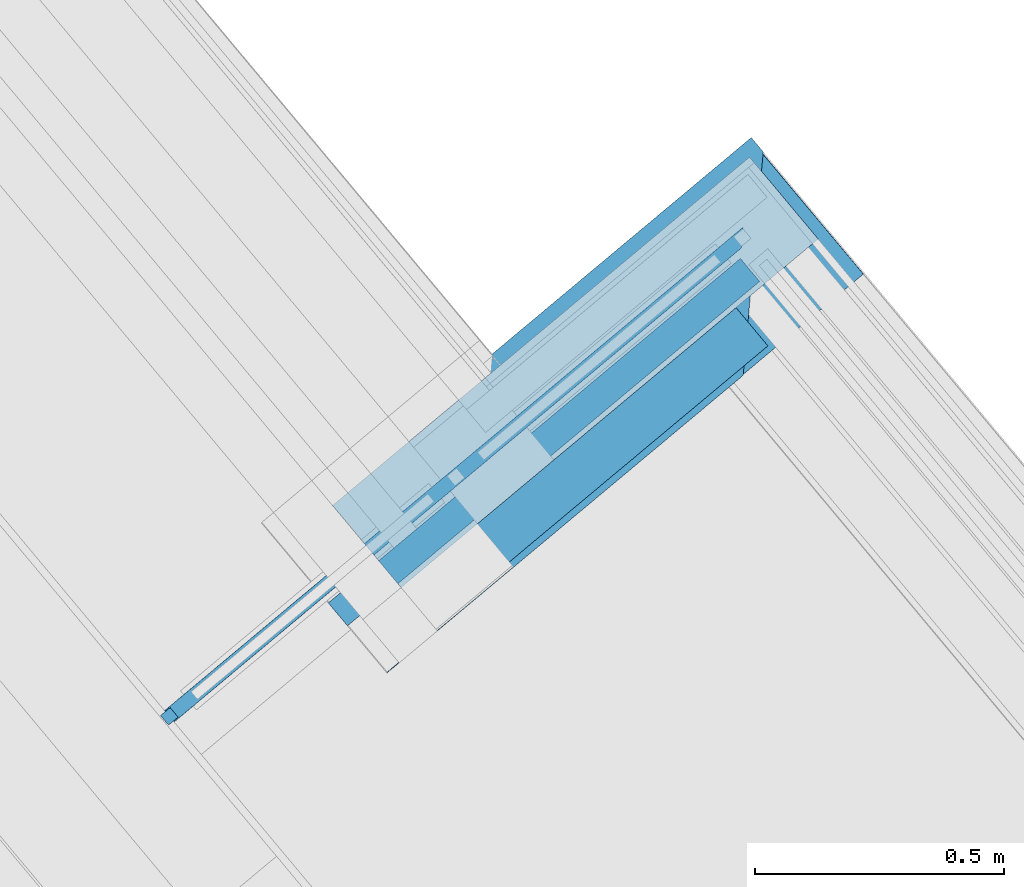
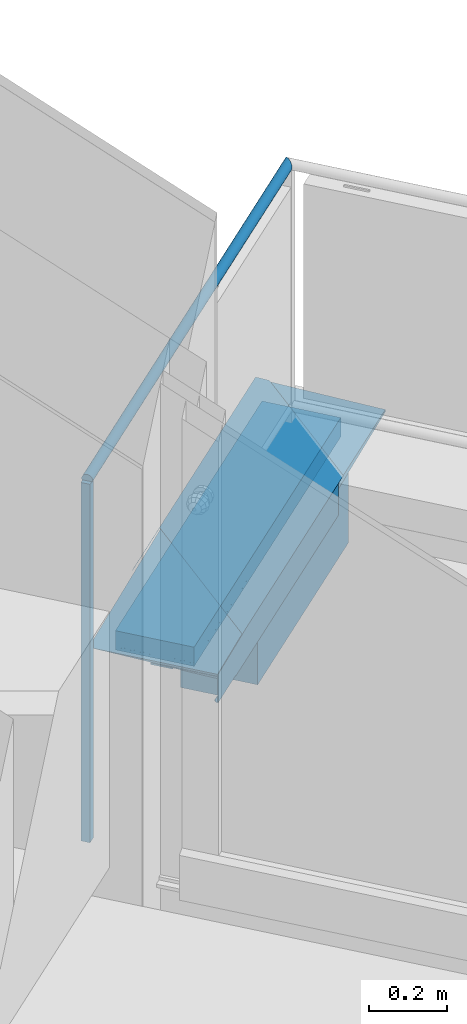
# One storey, part 39 of 61: 7 building element parts, 2 elements without a shape of their own.
"""IFC4 building model written with IfcOpenShell, lengths in metres."""

import ifcopenshell
import ifcopenshell.guid

model = None  # the IFC model being written
_history = None  # IfcOwnerHistory: only IFC2X3 demands one
_inside = {}  # id of a spatial element -> (the spatial element, [elements in it])
_under = {}  # id of a project, library or spatial element -> (it, [spatial elements below it])
_declared = {}  # id of a project -> (the project, [libraries it declares])
_typed = {}  # id of a type object -> (the type object, [elements of that type])
_made_of = {}  # id of a material, layer set ... -> (it, [elements and type objects made of it])


def new_model(schema):
    """Start an empty IFC model of exactly this schema.

    Asked for "IFC4X3", IfcOpenShell would pick the latest addendum, in which some entities
    have other attributes; the version numbers below select the first issue.
    IFC2X3 requires an IfcOwnerHistory on every rooted entity: one is made here for all.
    """
    global model, _history
    if schema == "IFC4X3":
        model = ifcopenshell.file(schema_version=(4, 3, 0, 0))
    else:
        model = ifcopenshell.file(schema=schema)
    _inside.clear()
    _under.clear()
    _declared.clear()
    _typed.clear()
    _made_of.clear()
    _history = None
    if model.schema == "IFC2X3":
        org = make("IfcOrganization", Name="unknown")
        user = make(
            "IfcPersonAndOrganization",
            ThePerson=make("IfcPerson", FamilyName="unknown"),
            TheOrganization=org,
        )
        app = make(
            "IfcApplication",
            ApplicationDeveloper=org,
            Version="unknown",
            ApplicationFullName="unknown",
            ApplicationIdentifier="unknown",
        )
        _history = make(
            "IfcOwnerHistory",
            OwningUser=user,
            OwningApplication=app,
            ChangeAction="ADDED",
            CreationDate=0,
        )
    return model


def make(cls, **values):
    """One entity of the class cls with the attributes given. An attribute that is None is left unset."""
    return model.create_entity(
        cls, **{name: value for name, value in values.items() if value is not None}
    )


def entity(cls, *values):
    """Any entity or typed value of the class cls, its attributes in the order of the schema. None: left unset."""
    e = model.create_entity(cls)
    for i, value in enumerate(values):
        if value is not None:
            e[i] = value
    return e


def rooted(cls, **values):
    """An entity with a GlobalId (a new one), such as an element, a storey or a relation."""
    return make(cls, GlobalId=ifcopenshell.guid.new(), OwnerHistory=_history, **values)


def si_unit(unit_type, name, prefix=None):
    """IfcSIUnit, for example si_unit("LENGTHUNIT", "METRE", prefix="MILLI")."""
    return make("IfcSIUnit", UnitType=unit_type, Prefix=prefix, Name=name)


def converted_unit(unit_type, name, factor, base, dimensions=None, offset=None):
    """IfcConversionBasedUnit, such as the inch: factor (a typed value) times the base unit."""
    return make(
        "IfcConversionBasedUnit"
        if offset is None
        else "IfcConversionBasedUnitWithOffset",
        ConversionOffset=offset,
        Dimensions=None
        if dimensions is None
        else entity("IfcDimensionalExponents", *dimensions),
        UnitType=unit_type,
        Name=name,
        ConversionFactor=make(
            "IfcMeasureWithUnit", ValueComponent=factor, UnitComponent=base
        ),
    )


def derived_unit(unit_type, elements):
    """IfcDerivedUnit: a product of units, each with its exponent."""
    return make(
        "IfcDerivedUnit",
        Elements=[
            make("IfcDerivedUnitElement", Unit=unit, Exponent=power)
            for unit, power in elements
        ],
        UnitType=unit_type,
    )


def assignment(units):
    """IfcUnitAssignment: the units of a project."""
    return None if units is None else make("IfcUnitAssignment", Units=units)


def point(xyz):
    """IfcCartesianPoint."""
    return None if xyz is None else make("IfcCartesianPoint", Coordinates=xyz)


def direction(xyz):
    """IfcDirection."""
    return None if xyz is None else make("IfcDirection", DirectionRatios=xyz)


def frame(location, z_axis=None, x_axis=None):
    """IfcAxis2Placement3D, a coordinate frame: its origin and axes. An axis left out is left unset."""
    return make(
        "IfcAxis2Placement3D",
        Location=point(location),
        Axis=direction(z_axis),
        RefDirection=direction(x_axis),
    )


def origin_with_axes():
    """The frame at (0, 0, 0) with the z axis (0, 0, 1) and the x axis (1, 0, 0) written out."""
    return frame((0.0, 0.0, 0.0), z_axis=(0.0, 0.0, 1.0), x_axis=(1.0, 0.0, 0.0))


def place(relative_to, where):
    """IfcLocalPlacement: puts the frame where relative to a parent placement (None: the world)."""
    return make(
        "IfcLocalPlacement", PlacementRelTo=relative_to, RelativePlacement=where
    )


def context(
    kind, dimensions, precision=None, world=None, true_north=None, identifier=None
):
    """IfcGeometricRepresentationContext, for example the 3D "Model" context."""
    return make(
        "IfcGeometricRepresentationContext",
        ContextIdentifier=identifier,
        ContextType=kind,
        CoordinateSpaceDimension=dimensions,
        Precision=precision,
        WorldCoordinateSystem=world,
        TrueNorth=true_north,
    )


def subcontext(parent, identifier, kind, view, scale=None):
    """IfcGeometricRepresentationSubContext, for example "Body" below "Model"."""
    return make(
        "IfcGeometricRepresentationSubContext",
        ContextIdentifier=identifier,
        ContextType=kind,
        ParentContext=parent,
        TargetScale=scale,
        TargetView=view,
    )


def project(units=None, contexts=None):
    """IfcProject with its units and contexts."""
    return rooted(
        "IfcProject",
        Name="project",
        RepresentationContexts=contexts,
        UnitsInContext=assignment(units),
    )


def spatial(cls, under=None, at=None, **own):
    """A site, building, storey or space (cls), placed at a placement, below another one or the project."""
    s = rooted(cls, ObjectPlacement=at, **own)
    if under is not None:
        _under.setdefault(under.id(), (under, []))[1].append(s)
    return s


def point_list(points):
    """IfcCartesianPointList2D or 3D."""
    cls = (
        "IfcCartesianPointList2D" if len(points[0]) == 2 else "IfcCartesianPointList3D"
    )
    return make(cls, CoordList=points)


def polygons(points, faces, closed=None, point_numbers=None):
    """IfcPolygonalFaceSet: a face is its outer loop, then its inner loops; points numbered from 1."""
    made = []
    for loops in faces:
        if len(loops) == 1:
            made.append(make("IfcIndexedPolygonalFace", CoordIndex=loops[0]))
        else:
            made.append(
                make(
                    "IfcIndexedPolygonalFaceWithVoids",
                    CoordIndex=loops[0],
                    InnerCoordIndices=loops[1:],
                )
            )
    return make(
        "IfcPolygonalFaceSet",
        Coordinates=point_list(points),
        Closed=closed,
        Faces=made,
        PnIndex=point_numbers,
    )


def shape(context_of_items, identifier, shape_type, items):
    """IfcShapeRepresentation: the items that make up one representation, for example the "Body"."""
    return make(
        "IfcShapeRepresentation",
        ContextOfItems=context_of_items,
        RepresentationIdentifier=identifier,
        RepresentationType=shape_type,
        Items=items,
    )


def material(Name=None, Category=None):
    """IfcMaterial."""
    return make("IfcMaterial", Name=Name, Category=Category)


def made_of(thing, what):
    """Note that an element or type object is made of a material, layer set ...; save() writes the relation."""
    if what is not None:
        _made_of.setdefault(what.id(), (what, []))[1].append(thing)
    return thing


def type_object(cls, material=None, **own):
    """A type object (cls), such as IfcWallType, which elements share."""
    return made_of(rooted(cls, **own), material)


def element(
    cls,
    number,
    at=None,
    inside=None,
    cuts=None,
    type_object=None,
    material=None,
    context=None,
    identifier="Body",
    shape_type=None,
    held_by="IfcProductDefinitionShape",
    body=None,
    shapes=None,
    **own,
):
    """One element of the class cls, such as IfcWall. Its Tag is "e" and its number.

    at: its placement. inside: the storey or other place that contains it. cuts: it is an
    opening in that element (IfcRelVoidsElement). A single representation is given by context,
    identifier, shape_type and body (its items); several are given by shapes. held_by: the class
    of the entity that holds the representations. save() writes the other relations.
    """
    e = rooted(cls, Tag="e%d" % number, ObjectPlacement=at, **own)
    if body is not None:
        shapes = [shape(context, identifier, shape_type, body)]
    if shapes is not None:
        e.Representation = make(held_by, Representations=shapes)
    if inside is not None:
        _inside.setdefault(inside.id(), (inside, []))[1].append(e)
    if cuts is not None:
        rooted(
            "IfcRelVoidsElement", RelatingBuildingElement=cuts, RelatedOpeningElement=e
        )
    if type_object is not None:
        _typed.setdefault(type_object.id(), (type_object, []))[1].append(e)
    return made_of(e, material)


def aggregate(whole, parts):
    """IfcRelAggregates: a whole, such as a stair, and the parts it consists of."""
    return rooted("IfcRelAggregates", RelatingObject=whole, RelatedObjects=parts)


def save(model, path):
    """Write the relations noted so far, then the file.

    IfcRelAggregates (storeys below a building ...), IfcRelContainedInSpatialStructure (elements
    in a storey), IfcRelDefinesByType, IfcRelAssociatesMaterial and IfcRelDeclares: one each for
    every whole, place, type object, material and project.
    """
    for whole, parts in _under.values():
        aggregate(whole, parts)
    for where, things in _inside.values():
        rooted(
            "IfcRelContainedInSpatialStructure",
            RelatedElements=things,
            RelatingStructure=where,
        )
    for kind, things in _typed.values():
        rooted("IfcRelDefinesByType", RelatedObjects=things, RelatingType=kind)
    for what, things in _made_of.values():
        rooted("IfcRelAssociatesMaterial", RelatedObjects=things, RelatingMaterial=what)
    for by, libraries in _declared.values():
        rooted("IfcRelDeclares", RelatingContext=by, RelatedDefinitions=libraries)
    model.write(path)


model = new_model("IFC4")

# Units and contexts
model_context = context("Model", 3, precision=1e-05, world=origin_with_axes(), true_north=direction((0.0, 1.0)))
body_context = subcontext(model_context, "Body", "Model", "MODEL_VIEW")
ifc_project = project(units=[si_unit("LENGTHUNIT", "METRE"), si_unit("AREAUNIT", "SQUARE_METRE"), si_unit("VOLUMEUNIT", "CUBIC_METRE"), converted_unit("PLANEANGLEUNIT", "DEGREE", entity("IfcPlaneAngleMeasure", 0.0174532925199), si_unit("PLANEANGLEUNIT", "RADIAN"), dimensions=[0, 0, 0, 0, 0, 0, 0]), converted_unit("TIMEUNIT", "Year", entity("IfcTimeMeasure", 31556926.0), si_unit("TIMEUNIT", "SECOND"), dimensions=[0, 0, 1, 0, 0, 0, 0]), si_unit("MASSUNIT", "GRAM", prefix="KILO"), si_unit("THERMODYNAMICTEMPERATUREUNIT", "DEGREE_CELSIUS"), si_unit("LUMINOUSINTENSITYUNIT", "LUMEN"), si_unit("ENERGYUNIT", "JOULE", prefix="MEGA"), derived_unit("THERMALCONDUCTANCEUNIT", [(si_unit("POWERUNIT", "WATT"), 1), (si_unit("LENGTHUNIT", "METRE"), -1), (si_unit("THERMODYNAMICTEMPERATUREUNIT", "KELVIN"), -1)]), derived_unit("SPECIFICHEATCAPACITYUNIT", [(si_unit("ENERGYUNIT", "JOULE"), 1), (si_unit("MASSUNIT", "GRAM", prefix="KILO"), -1), (si_unit("THERMODYNAMICTEMPERATUREUNIT", "KELVIN"), -1)]), derived_unit("MASSDENSITYUNIT", [(si_unit("MASSUNIT", "GRAM", prefix="KILO"), 1), (si_unit("VOLUMEUNIT", "CUBIC_METRE"), -1)])], contexts=[model_context])

# Site, building, storey
site_placement = place(None, frame((-0.00153261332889, -0.00661245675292, 0.0), z_axis=(0.0, 0.0, 1.0), x_axis=(1.0, 0.0, 0.0)))
site = spatial("IfcSite", under=ifc_project, at=site_placement, Name="Gelände", CompositionType="ELEMENT")
building_placement = place(site_placement, origin_with_axes())
building = spatial("IfcBuilding", under=site, at=building_placement, Name="Gebäude", CompositionType="ELEMENT")
storey_placement = place(building_placement, frame((0.0, 0.0, 5.7), z_axis=(0.0, 0.0, 1.0), x_axis=(1.0, 0.0, 0.0)))
storey = spatial("IfcBuildingStorey", under=building, at=storey_placement, Name="DG1", CompositionType="ELEMENT", Elevation=5.7)

# Wall, building element parts
wall_type = type_object("IfcWallType", Name="Bauteil - Attika Balkon 356 x 610", PredefinedType="NOTDEFINED")
wall_placement = place(storey_placement, frame((10.0769189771, 25.3809042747, -0.2), z_axis=(0.0, 0.0, 1.0), x_axis=(0.767365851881, 0.641209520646, 0.0)))
wall = element("IfcWall", 1, at=wall_placement, inside=storey, type_object=wall_type, Name="Wand-003", PredefinedType="NOTDEFINED")
ifc_material_1 = material(Name="Brettschichtholz")
building_element_part_1_placement = place(wall_placement, origin_with_axes())
building_element_part_1 = element("IfcBuildingElementPart", 2, at=building_element_part_1_placement, material=ifc_material_1, Name="Brettschichtholz", PredefinedType="NOTDEFINED", context=body_context, shape_type="Tessellation", body=[
    polygons([(-0.2, 0.010142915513, 0.560000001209), (-0.2, 0.0, 0.560000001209), (0.891929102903, 0.0, 0.56000000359), (0.891929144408, 0.010142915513, 0.56000000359), (-0.2, 0.0, 0.519273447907), (-0.2, 0.0701429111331, 0.560000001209), (-0.2, 0.130124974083, 0.560000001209), (-0.2, 0.190124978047, 0.560000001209), (-0.2, 0.214999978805, 0.560000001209), (-0.2, 0.214999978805, 0.519273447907), (-0.2, 0.0, 0.519224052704), (-0.2, 0.0, 0.511410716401), (0.21499996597, 0.0, 0.511410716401), (0.238182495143, 0.0, 0.511410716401), (0.240097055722, 0.0, 0.511410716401), (0.240146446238, 0.0, 0.511361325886), (0.23823188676, 0.0, 0.511361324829), (0.214999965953, 0.0, 0.511361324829), (-0.200000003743, 0.0, 0.511361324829), (-0.2, 0.0, 0.509099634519), (0.214999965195, 0.0, 0.509099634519), (0.240493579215, 0.0, 0.509099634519), (0.240592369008, 0.0, 0.509099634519), (0.240542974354, 0.0, 0.509050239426), (0.214999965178, 0.0, 0.50905023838), (-0.200000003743, 0.0, 0.50905023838), (-0.2, 0.0, 0.506731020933), (-0.2, 0.0, 0.499999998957), (0.89192910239, 0.0, 0.499999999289), (0.891929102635, 0.0, 0.509099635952), (0.891929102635, 0.0, 0.511410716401), (0.891929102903, 0.0, 0.519273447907), (0.891929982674, 0.214999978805, 0.519273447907), (0.891929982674, 0.214999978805, 0.56000000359), (0.891929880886, 0.190124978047, 0.56000000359), (0.891929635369, 0.130124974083, 0.56000000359), (0.891929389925, 0.0701429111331, 0.56000000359), (0.891929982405, 0.214999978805, 0.511410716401), (0.891929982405, 0.214999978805, 0.509099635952), (0.89192998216, 0.214999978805, 0.499999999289), (-0.2, 0.214999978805, 0.499999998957), (-0.2, 0.214999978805, 0.506731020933), (-0.200000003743, 0.214999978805, 0.50905023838), (0.214999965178, 0.214999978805, 0.50905023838), (0.240542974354, 0.214999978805, 0.509050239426), (0.240592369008, 0.214999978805, 0.509099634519), (0.240493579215, 0.214999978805, 0.509099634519), (0.214999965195, 0.214999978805, 0.509099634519), (-0.2, 0.214999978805, 0.509099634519), (-0.200000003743, 0.214999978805, 0.511361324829), (0.214999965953, 0.214999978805, 0.511361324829), (0.23823188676, 0.214999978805, 0.511361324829), (0.240146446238, 0.214999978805, 0.511361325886), (0.240097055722, 0.214999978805, 0.511410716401), (0.238182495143, 0.214999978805, 0.511410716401), (0.21499996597, 0.214999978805, 0.511410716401), (-0.2, 0.214999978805, 0.511410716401), (-0.2, 0.214999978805, 0.519224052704)], [[[1, 2, 3, 4]], [[5, 2, 1, 6, 7, 8, 9, 10]], [[2, 5, 11, 12, 13, 14, 15, 16, 17, 18, 19, 20, 21, 22, 23, 24, 25, 26, 27, 28, 29, 30, 31, 32, 3]], [[4, 3, 32, 33, 34, 35, 36, 37]], [[6, 1, 4, 37]], [[7, 6, 37, 36]], [[8, 7, 36, 35]], [[9, 8, 35, 34]], [[10, 9, 34, 33, 38, 39, 40, 41, 42, 43, 44, 45, 46, 47, 48, 49, 50, 51, 52, 53, 54, 55, 56, 57, 58]], [[5, 10, 58, 11]], [[11, 58, 57, 12]], [[12, 57, 56, 13]], [[55, 14, 13, 56]], [[15, 14, 55, 54]], [[16, 15, 54, 53]], [[17, 16, 53, 52]], [[17, 52, 51, 18]], [[18, 51, 50, 19]], [[19, 50, 49, 20]], [[20, 49, 48, 21]], [[47, 22, 21, 48]], [[23, 22, 47, 46]], [[24, 23, 46, 45]], [[24, 45, 44, 25]], [[25, 44, 43, 26]], [[26, 43, 42, 27]], [[27, 42, 41, 28]], [[28, 41, 40, 29]], [[39, 30, 29, 40]], [[38, 31, 30, 39]], [[33, 32, 31, 38]]], closed=True),
])
ifc_material_2 = material(Name="Vollholz")
building_element_part_2_placement = place(wall_placement, origin_with_axes())
building_element_part_2 = element("IfcBuildingElementPart", 3, at=building_element_part_2_placement, material=ifc_material_2, Name="Vollholz", PredefinedType="NOTDEFINED", context=body_context, shape_type="Tessellation", body=[
    polygons([(0.747072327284, 0.0701429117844, 0.57982217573), (0.747072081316, 0.0100326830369, 0.57982217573), (0.747072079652, 0.0100562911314, 0.575576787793), (0.747072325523, 0.0701429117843, 0.575576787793), (0.747072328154, 0.0701429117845, 0.581921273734), (-0.100000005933, 0.0100540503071, 0.57597974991), (-0.111539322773, 0.0100562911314, 0.575576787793), (-0.160110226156, 0.010065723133, 0.573880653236), (-0.160063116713, 0.0100987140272, 0.567947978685), (-0.160000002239, 0.0101429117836, 0.559999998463), (0.747072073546, 0.0101429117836, 0.559999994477), (-0.332051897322, 0.0100326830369, 0.579822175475), (-0.332051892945, 0.0100540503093, 0.575979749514), (-0.330698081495, 0.0100540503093, 0.575979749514), (-0.330280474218, 0.0100540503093, 0.57597974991), (0.747072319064, 0.0701429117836, 0.559999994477), (-0.160000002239, 0.0701429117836, 0.559999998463), (-0.160063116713, 0.0701429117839, 0.567947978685), (-0.160110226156, 0.0701429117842, 0.573880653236), (-0.111539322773, 0.0701429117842, 0.575576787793), (-0.100000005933, 0.0701429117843, 0.57597974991), (-0.330280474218, 0.0701429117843, 0.57597974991), (-0.330698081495, 0.0701429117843, 0.575979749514), (-0.332051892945, 0.0701429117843, 0.575979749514), (-0.332051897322, 0.0701429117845, 0.581921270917)], [[[1, 2, 3, 4]], [[5, 2, 1]], [[6, 7, 8, 9, 10, 11, 3, 2, 12, 13, 14, 15]], [[4, 3, 11, 16]], [[5, 1, 4, 16, 17, 18, 19, 20, 21, 22, 23, 24, 25]], [[2, 5, 25, 12]], [[7, 6, 21, 20]], [[7, 20, 19, 8]], [[8, 19, 18, 9]], [[9, 18, 17, 10]], [[10, 17, 16, 11]], [[24, 13, 12, 25]], [[23, 14, 13, 24]], [[22, 15, 14, 23]], [[6, 15, 22, 21]]], closed=True),
])
ifc_material_3 = material(Name="EPS 1")
building_element_part_3_placement = place(wall_placement, origin_with_axes())
building_element_part_3 = element("IfcBuildingElementPart", 4, at=building_element_part_3_placement, material=ifc_material_3, Name="EPS 1", PredefinedType="NOTDEFINED", context=body_context, shape_type="Tessellation", body=[
    polygons([(-0.300000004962, 2.39905872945e-10, 0.559999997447), (-0.300000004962, -0.0999999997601, 0.559999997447), (0.676928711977, -0.0999999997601, 0.560000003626), (0.676929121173, 2.39905872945e-10, 0.560000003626), (-0.300000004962, -0.0999999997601, 0.519273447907), (-0.300000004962, 2.39907649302e-10, 0.519273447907), (-0.300000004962, -0.0999999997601, 0.519224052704), (-0.300000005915, -0.0999999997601, 0.511410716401), (-0.300000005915, -0.0999999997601, 0.511361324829), (-0.300000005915, -0.0999999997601, 0.509099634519), (-0.300000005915, -0.0999999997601, 0.50905023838), (-0.300000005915, -0.0999999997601, 0.506731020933), (-0.300000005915, -0.0999999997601, 0.499999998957), (-0.199999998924, -0.0999999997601, 0.500000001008), (-1.82835790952e-09, -0.0999999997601, 0.500000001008), (-1.82835790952e-09, -0.0999999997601, 0.498915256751), (-1.82835790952e-09, -0.0999999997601, 0.498822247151), (-1.82835790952e-09, -0.0999999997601, 0.496604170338), (-1.82835790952e-09, -0.0999999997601, 0.49100648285), (-1.82835790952e-09, -0.0999999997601, 0.488695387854), (-1.82835790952e-09, -0.0999999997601, 0.335), (0.676928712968, -0.0999999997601, 0.334999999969), (0.676928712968, -0.0999999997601, 0.496604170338), (0.676928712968, -0.0999999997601, 0.498915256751), (0.676928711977, -0.0999999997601, 0.499999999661), (0.676928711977, -0.0999999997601, 0.506731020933), (0.676928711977, -0.0999999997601, 0.509099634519), (0.676928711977, -0.0999999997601, 0.511410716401), (0.676928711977, -0.0999999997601, 0.519273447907), (0.676929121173, 2.39907649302e-10, 0.519273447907), (0.676929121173, 2.39907649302e-10, 0.511410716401), (0.676929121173, 2.39907649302e-10, 0.509099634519), (0.676929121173, 2.39907649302e-10, 0.506731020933), (0.676929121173, 2.39912978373e-10, 0.499999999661), (0.676929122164, 2.39911202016e-10, 0.498915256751), (0.676929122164, 2.39911202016e-10, 0.496604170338), (0.676929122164, 2.39905872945e-10, 0.334999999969), (-1.8283543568e-09, 2.39909425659e-10, 0.335), (-1.8283543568e-09, 2.39909425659e-10, 0.488695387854), (-1.8283543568e-09, 2.39909425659e-10, 0.49100648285), (-1.8283543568e-09, 2.39909425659e-10, 0.496604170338), (-1.8283543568e-09, 2.39909425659e-10, 0.498822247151), (-1.8283543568e-09, 2.39909425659e-10, 0.498915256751), (-1.8283543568e-09, 2.39909425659e-10, 0.500000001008), (-0.199999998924, 2.39909425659e-10, 0.500000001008), (-0.300000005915, 2.39909425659e-10, 0.499999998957), (-0.300000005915, 2.39909425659e-10, 0.506731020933), (-0.300000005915, 2.39909425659e-10, 0.50905023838), (-0.300000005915, 2.39909425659e-10, 0.509099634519), (-0.300000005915, 2.39909425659e-10, 0.511361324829), (-0.300000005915, 2.39909425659e-10, 0.511410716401), (-0.300000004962, 2.39907649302e-10, 0.519224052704)], [[[1, 2, 3, 4]], [[5, 2, 1, 6]], [[2, 5, 7, 8, 9, 10, 11, 12, 13, 14, 15, 16, 17, 18, 19, 20, 21, 22, 23, 24, 25, 26, 27, 28, 29, 3]], [[4, 3, 29, 30]], [[6, 1, 4, 30, 31, 32, 33, 34, 35, 36, 37, 38, 39, 40, 41, 42, 43, 44, 45, 46, 47, 48, 49, 50, 51, 52]], [[5, 6, 52, 7]], [[7, 52, 51, 8]], [[8, 51, 50, 9]], [[9, 50, 49, 10]], [[10, 49, 48, 11]], [[11, 48, 47, 12]], [[12, 47, 46, 13]], [[13, 46, 45, 14]], [[15, 14, 45, 44]], [[16, 15, 44, 43]], [[16, 43, 42, 17]], [[17, 42, 41, 18]], [[18, 41, 40, 19]], [[19, 40, 39, 20]], [[20, 39, 38, 21]], [[21, 38, 37, 22]], [[36, 23, 22, 37]], [[35, 24, 23, 36]], [[34, 25, 24, 35]], [[33, 26, 25, 34]], [[32, 27, 26, 33]], [[31, 28, 27, 32]], [[30, 29, 28, 31]]], closed=True),
])
ifc_material_4 = material(Name="Holzwerkstoff")
building_element_part_4_placement = place(wall_placement, origin_with_axes())
building_element_part_4 = element("IfcBuildingElementPart", 5, at=building_element_part_4_placement, material=ifc_material_4, Name="Holzwerkstoff", PredefinedType="NOTDEFINED", context=body_context, shape_type="Tessellation", body=[
    polygons([(-0.112227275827, 0.239720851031, 0.595846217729), (0.239276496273, 0.23927649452, 0.608570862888), (0.916206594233, 0.23927649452, 0.608570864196), (0.916650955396, 0.239720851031, 0.595846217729), (0.916930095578, 0.23999998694, 0.587852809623), (-0.330695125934, 0.23999998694, 0.587852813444), (-0.330698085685, 0.239997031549, 0.587937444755), (-0.112227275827, -0.112247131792, 0.595846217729), (0.916649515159, -0.112247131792, 0.595846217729), (0.91692865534, -0.111967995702, 0.587852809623), (-0.330634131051, 0.189984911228, 0.586106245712), (0.866914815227, 0.189984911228, 0.586106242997), (-0.330634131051, -0.111907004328, 0.586106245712), (-0.330698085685, -0.111970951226, 0.587937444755), (0.866913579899, -0.11190700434, 0.586106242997), (-0.330561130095, -0.111834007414, 0.584015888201), (-0.330487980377, -0.111760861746, 0.581921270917), (-0.330698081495, -0.111760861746, 0.581921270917), (-0.332051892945, -0.111760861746, 0.581921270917), (-0.332051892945, -0.111553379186, 0.575979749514), (-0.330698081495, -0.111553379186, 0.575979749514), (-0.330280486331, -0.111553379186, 0.575979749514), (-0.330266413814, -0.111539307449, 0.575576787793), (0.565389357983, -0.111539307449, 0.575576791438), (0.686961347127, -0.111687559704, 0.579822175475), (0.747071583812, -0.111760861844, 0.581921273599), (0.807053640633, -0.111834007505, 0.584015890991), (-0.330561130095, 0.13012497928, 0.584015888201), (0.807054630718, 0.13012497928, 0.584015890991), (-0.330487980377, 0.0701429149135, 0.581921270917), (-0.330698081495, 0.0701429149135, 0.581921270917), (-0.332051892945, 0.0701429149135, 0.581921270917), (-0.332051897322, 0.0100326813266, 0.579822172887), (-0.332051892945, -0.0999999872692, 0.575979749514), (-0.330698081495, -0.100000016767, 0.575979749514), (-0.330280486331, -0.100000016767, 0.575979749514), (0.686961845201, 0.0100326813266, 0.579822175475), (0.747072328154, 0.0701429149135, 0.581921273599)], [[[1, 2, 3, 4, 5, 6, 7]], [[8, 2, 1]], [[2, 8, 9, 3]], [[4, 3, 9]], [[5, 4, 9, 10]], [[11, 6, 5, 12]], [[6, 11, 13, 14, 7]], [[8, 1, 7, 14]], [[15, 10, 9, 8, 14, 13, 16, 17, 18, 19, 20, 21, 22, 23, 24, 25, 26, 27]], [[12, 5, 10, 15]], [[28, 11, 12, 29]], [[13, 11, 28, 16]], [[16, 28, 30, 17]], [[31, 18, 17, 30]], [[19, 18, 31, 32]], [[32, 33, 34, 20, 19]], [[35, 21, 20, 34]], [[22, 21, 35, 36]], [[36, 23, 22]], [[37, 24, 23, 36, 35, 34, 33]], [[24, 37, 25]], [[26, 25, 37, 38]], [[26, 38, 29, 27]], [[27, 29, 12, 15]], [[38, 30, 28, 29]], [[32, 31, 30, 38, 37, 33]]], closed=True),
])
ifc_material_5 = material(Name="Stahl")
building_element_part_5_placement = place(wall_placement, origin_with_axes())
building_element_part_5 = element("IfcBuildingElementPart", 6, at=building_element_part_5_placement, material=ifc_material_5, Name="Stahl", PredefinedType="NOTDEFINED", context=body_context, shape_type="Tessellation", body=[
    polygons([(-0.332051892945, -0.109247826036, 0.499999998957), (-0.330698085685, -0.109247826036, 0.499999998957), (-0.330698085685, -0.111162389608, 0.499999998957), (-0.332051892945, -0.111162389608, 0.499999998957), (-0.332051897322, -0.103427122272, 0.505820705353), (0.573501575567, -0.103427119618, 0.505820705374), (0.567680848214, -0.109247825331, 0.499999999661), (0.566596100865, -0.110332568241, 0.498915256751), (0.5642850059, -0.112643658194, 0.496604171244), (-0.2, -0.112643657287, 0.496604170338), (-0.2, -0.110425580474, 0.498822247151), (-0.2, -0.110332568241, 0.498915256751), (-0.2, -0.109247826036, 0.499999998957), (-0.300000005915, -0.109247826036, 0.499999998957), (-0.300000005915, -0.111162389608, 0.499999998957), (-0.2, -0.111162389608, 0.499999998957), (-0.2, -0.112247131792, 0.498915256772), (0.564681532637, -0.112247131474, 0.498915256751), (0.566596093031, -0.112247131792, 0.498915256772), (0.56768084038, -0.111162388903, 0.499999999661), (0.573501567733, -0.105341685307, 0.505820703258), (0.572497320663, -0.104431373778, 0.506731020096), (-0.332051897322, -0.104431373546, 0.506731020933), (0.566596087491, -0.113600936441, 0.498915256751), (0.565242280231, -0.113600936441, 0.497561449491), (-0.2, -0.113600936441, 0.497561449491), (-0.2, -0.113600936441, 0.498822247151), (-0.2, -0.113600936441, 0.498915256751), (-0.330698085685, -0.112247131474, 0.499999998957), (-0.332051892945, -0.112247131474, 0.499999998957), (-0.332051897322, -0.112247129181, 0.589243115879), (-0.149650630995, -0.112247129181, 0.595846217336), (0.564681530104, -0.112247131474, 0.595846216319), (0.564681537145, -0.112247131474, 0.586106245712), (0.564681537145, -0.112247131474, 0.584015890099), (0.564681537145, -0.112247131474, 0.581921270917), (0.564681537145, -0.112247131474, 0.579822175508), (0.564681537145, -0.112247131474, 0.575576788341), (0.564681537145, -0.112247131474, 0.559999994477), (0.564681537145, -0.112247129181, 0.519273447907), (0.564681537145, -0.112247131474, 0.511410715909), (0.564681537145, -0.112247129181, 0.509099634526), (0.564681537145, -0.112247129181, 0.506731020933), (0.564681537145, -0.112247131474, 0.499999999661), (-0.2, -0.112247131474, 0.499999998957), (-0.300000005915, -0.112247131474, 0.499999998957), (0.564681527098, -0.11360093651, 0.498915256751), (-0.332051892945, -0.11360093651, 0.499999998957), (-0.330698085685, -0.11360093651, 0.499999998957), (-0.300000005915, -0.11360093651, 0.499999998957), (-0.2, -0.11360093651, 0.499999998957), (0.564681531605, -0.11360093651, 0.499999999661), (0.564681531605, -0.113600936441, 0.506731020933), (0.564681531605, -0.113600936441, 0.509099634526), (0.564681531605, -0.11360093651, 0.511410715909), (0.564681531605, -0.1136009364, 0.519273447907), (0.564681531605, -0.11360093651, 0.559999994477), (0.564681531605, -0.11360093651, 0.575576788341), (0.564681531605, -0.11360093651, 0.579822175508), (0.564681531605, -0.11360093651, 0.581921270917), (0.564681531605, -0.11360093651, 0.584015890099), (0.564681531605, -0.11360093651, 0.586106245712), (0.564681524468, -0.11360093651, 0.5958462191), (0.600751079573, -0.11360093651, 0.597151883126), (-0.11358351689, -0.113600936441, 0.597151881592), (-0.332051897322, -0.113600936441, 0.589243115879), (0.241500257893, 0.241343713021, 0.610006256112), (0.241500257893, 0.242707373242, 0.610006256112), (0.20273064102, 0.242707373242, 0.608602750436), (0.20273064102, 0.241359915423, 0.608602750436), (0.204094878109, 0.24135992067, 0.60865214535), (0.201849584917, 0.23927649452, 0.608570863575), (0.916206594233, 0.239276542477, 0.608570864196), (0.916206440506, 0.201708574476, 0.608570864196), (0.0, 0.242707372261, 0.610055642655), (0.0, 0.241343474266, 0.610006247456), (0.918289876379, 0.203952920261, 0.608652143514), (0.919637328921, 0.203952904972, 0.60865214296), (0.919637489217, 0.242707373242, 0.610055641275), (0.0, 0.242707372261, 0.610006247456), (0.919637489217, 0.242707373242, 0.510056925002), (0.239536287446, 0.242707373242, 0.510056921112), (0.238231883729, 0.242707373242, 0.511361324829), (0.240146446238, 0.242707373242, 0.511361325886), (0.240146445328, 0.242707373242, 0.511410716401), (0.240146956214, 0.242707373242, 0.519224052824), (0.240146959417, 0.242707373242, 0.519273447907), (0.240149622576, 0.242707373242, 0.559999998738), (0.240150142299, 0.242707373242, 0.567947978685), (0.240150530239, 0.242707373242, 0.573880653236), (0.240150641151, 0.242707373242, 0.575576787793), (0.240150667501, 0.242707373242, 0.575979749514), (0.240150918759, 0.242707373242, 0.57982217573), (0.24015105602, 0.242707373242, 0.581921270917), (0.240151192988, 0.242707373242, 0.584015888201), (0.240151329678, 0.242707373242, 0.58610624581), (0.240151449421, 0.242707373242, 0.587937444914), (0.24015196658, 0.242707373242, 0.595846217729), (0.240152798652, 0.242707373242, 0.608570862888), (0.240152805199, 0.242707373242, 0.608602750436), (0.240152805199, 0.241359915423, 0.608602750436), (0.240152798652, 0.241359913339, 0.608570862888), (0.24015196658, 0.241359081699, 0.595846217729), (0.240151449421, 0.241358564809, 0.587937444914), (0.240151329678, 0.241358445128, 0.58610624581), (0.240151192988, 0.241358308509, 0.584015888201), (0.24015105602, 0.241358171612, 0.581921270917), (0.240150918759, 0.241358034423, 0.57982217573), (0.240150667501, 0.241357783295, 0.575979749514), (0.240150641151, 0.241357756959, 0.575576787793), (0.240150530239, 0.241357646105, 0.573880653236), (0.240150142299, 0.241357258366, 0.567947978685), (0.240149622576, 0.241356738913, 0.559999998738), (0.240146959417, 0.241354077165, 0.519273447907), (0.240146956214, 0.241354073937, 0.519224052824), (0.240146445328, 0.241353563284, 0.511410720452), (0.918283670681, 0.24135356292, 0.511410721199), (0.919637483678, 0.241353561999, 0.511410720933), (0.919637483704, 0.24135992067, 0.60865214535), (0.918290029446, 0.2413599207, 0.608652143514), (0.919637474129, 0.23943900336, 0.511410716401), (0.919637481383, 0.24079279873, 0.510056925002), (0.240493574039, 0.241750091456, 0.509099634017), (0.918680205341, 0.241750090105, 0.509099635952), (0.238231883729, 0.239488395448, 0.511361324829), (0.240146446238, 0.239488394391, 0.511361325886), (0.240146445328, 0.239439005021, 0.511410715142), (0.2381824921, 0.241353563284, 0.511410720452), (0.231373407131, 0.234544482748, 0.518219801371), (0.232283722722, 0.233540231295, 0.519224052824), (0.240146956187, 0.233540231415, 0.519224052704), (0.240146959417, 0.233490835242, 0.519273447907), (0.910420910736, 0.233490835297, 0.519273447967), (0.240097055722, 0.241353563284, 0.511410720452), (0.918283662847, 0.239438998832, 0.511410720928), (0.231418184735, 0.232580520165, 0.518269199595), (0.231373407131, 0.23262991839, 0.518219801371), (0.2381824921, 0.239439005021, 0.511410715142), (0.240097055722, 0.239439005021, 0.511410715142), (0.911425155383, 0.232580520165, 0.518269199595), (0.232283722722, 0.233446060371, 0.519224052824), (0.240146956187, 0.233446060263, 0.519224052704)], [[[1, 2, 3, 4]], [[2, 1, 5, 6, 7, 8, 9, 10, 11, 12, 13, 14]], [[3, 2, 14, 15]], [[4, 3, 15, 16, 17, 18, 19, 20, 21, 22, 23]], [[1, 4, 23, 5]], [[5, 23, 22, 6]], [[20, 7, 6, 21]], [[8, 7, 20, 19]], [[9, 8, 19, 24, 25]], [[26, 10, 9, 25]], [[27, 11, 10, 26]], [[11, 27, 28, 17, 12]], [[13, 12, 17, 16]], [[15, 14, 13, 16]], [[29, 30, 31, 32, 33, 34, 35, 36, 37, 38, 39, 40, 41, 42, 43, 44, 18, 17, 45, 46]], [[18, 47, 24, 19]], [[6, 22, 21]], [[48, 49, 50, 51, 28, 27, 26, 25, 24, 47, 52, 53, 54, 55, 56, 57, 58, 59, 60, 61, 62, 63, 64, 65, 66]], [[17, 28, 51, 45]], [[48, 30, 29, 49]], [[30, 48, 66, 31]], [[31, 66, 65, 67, 68, 69, 70, 71, 72, 32]], [[32, 72, 73, 33]], [[33, 63, 62, 34]], [[62, 61, 35, 34]], [[61, 60, 36, 35]], [[60, 59, 37, 36]], [[59, 58, 38, 37]], [[58, 57, 39, 38]], [[39, 57, 56, 40]], [[56, 55, 41, 40]], [[55, 54, 42, 41]], [[54, 53, 43, 42]], [[53, 52, 44, 43]], [[18, 44, 52, 47]], [[50, 46, 45, 51]], [[49, 29, 46, 50]], [[63, 33, 73, 74, 64]], [[75, 76, 67, 65, 64, 74, 77, 78, 79]], [[76, 80, 68, 67]], [[80, 75, 79, 81, 82, 83, 84, 85, 86, 87, 88, 89, 90, 91, 92, 93, 94, 95, 96, 97, 98, 99, 100, 69, 68]], [[70, 69, 100, 101]], [[71, 70, 101, 102, 103, 104, 105, 106, 107, 108, 109, 110, 111, 112, 113, 114, 115, 116, 117, 118, 119, 120]], [[72, 71, 120, 73]], [[73, 120, 77, 74]], [[75, 80, 76]], [[77, 120, 119, 78]], [[121, 122, 81, 79, 78, 119, 118]], [[123, 82, 81, 124]], [[83, 82, 123, 125]], [[84, 83, 125, 126]], [[85, 84, 126, 127, 116]], [[86, 85, 116, 115]], [[87, 86, 115, 114]], [[88, 87, 114, 113]], [[89, 88, 113, 112]], [[90, 89, 112, 111]], [[91, 90, 111, 110]], [[91, 110, 109, 92]], [[93, 92, 109, 108]], [[93, 108, 107, 94]], [[94, 107, 106, 95]], [[95, 106, 105, 96]], [[96, 105, 104, 97]], [[98, 97, 104, 103]], [[98, 103, 102, 99]], [[99, 102, 101, 100]], [[128, 129, 130, 131, 132, 133, 117, 116, 134]], [[117, 135, 121, 118]], [[136, 137, 138, 139, 127, 126, 125, 123, 124, 122, 121, 135, 140]], [[124, 81, 122]], [[134, 116, 127, 139]], [[129, 128, 138, 137]], [[129, 137, 136, 141, 130]], [[130, 141, 142, 131]], [[132, 131, 142]], [[141, 136, 140, 133, 132, 142]], [[117, 133, 140, 135]], [[138, 128, 134, 139]]], closed=True),
])
aggregate(wall, [building_element_part_1, building_element_part_2, building_element_part_3, building_element_part_4, building_element_part_5])

# Space
space_placement = place(storey_placement, frame((9.89495575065, 25.0808160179, 0.22), z_axis=(0.0, 0.0, 1.0), x_axis=(-0.767365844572, -0.641209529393, 0.0)))
space = spatial("IfcSpace", under=storey, at=space_placement, CompositionType="ELEMENT", PredefinedType="NOTDEFINED")

# Railing, building element parts
railing_type = type_object("IfcRailingType", Name="Geländerart", PredefinedType="NOTDEFINED")
railing_placement = place(space_placement, frame((0.391162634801, 5.51606821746, 0.16), z_axis=(0.0, 0.0, 1.0), x_axis=(-0.767365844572, 0.641209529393, 0.0)))
railing = element("IfcRailing", 7, at=railing_placement, inside=space, type_object=railing_type, Name="Geländer - 001", PredefinedType="NOTDEFINED")
ifc_material_6 = material(Name="Aluminium")
building_element_part_6_placement = place(railing_placement, origin_with_axes())
building_element_part_6 = element("IfcBuildingElementPart", 8, at=building_element_part_6_placement, material=ifc_material_6, Name="Aluminium", PredefinedType="NOTDEFINED", context=body_context, shape_type="Tessellation", body=[
    polygons([(-3.69152561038, 4.39832939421, -0.3), (-3.67549537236, 4.37914524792, -0.3), (-3.67549537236, 4.37914524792, 0.82), (-3.69152561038, 4.39832939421, 0.82), (-3.67234146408, 4.41435963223, -0.3), (-3.65631122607, 4.39517548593, -0.3), (-3.65631122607, 4.39517548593, 0.82), (-3.67234146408, 4.41435963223, 0.82)], [[[1, 2, 3, 4]], [[1, 5, 6, 2]], [[2, 6, 7, 3]], [[4, 3, 7, 8]], [[5, 1, 4, 8]], [[6, 5, 8, 7]]], closed=True),
])
building_element_part_7_placement = place(railing_placement, origin_with_axes())
building_element_part_7 = element("IfcBuildingElementPart", 9, at=building_element_part_7_placement, material=ifc_material_6, Name="Aluminium", PredefinedType="NOTDEFINED", context=body_context, shape_type="Tessellation", body=[
    polygons([(-2.52464808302, 5.33753326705, 0.825), (-2.52461931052, 5.33785427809, 0.827604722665), (-3.66444639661, 4.38541682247, 0.827604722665), (-3.66430027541, 4.38524195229, 0.825), (-2.52461931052, 5.33785427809, 0.822395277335), (-2.52453386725, 5.33880755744, 0.81986969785), (-2.52439434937, 5.34036414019, 0.8175), (-2.52420499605, 5.34247673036, 0.815358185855), (-2.5239715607, 5.34508113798, 0.813509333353), (-2.52370113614, 5.34809822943, 0.812009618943), (-2.52340193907, 5.35143633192, 0.810904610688), (-2.52308306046, 5.35499401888, 0.810227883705), (-2.52275418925, 5.35866319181, 0.81), (-2.52242531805, 5.36233236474, 0.810227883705), (-2.52210643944, 5.36589005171, 0.810904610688), (-2.52180724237, 5.36922815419, 0.812009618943), (-2.52153681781, 5.37224524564, 0.813509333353), (-2.52130338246, 5.37484965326, 0.815358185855), (-2.52111402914, 5.37696224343, 0.8175), (-2.52097451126, 5.37851882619, 0.81986969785), (-2.52088906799, 5.37947210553, 0.822395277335), (-2.52086029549, 5.37979311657, 0.825), (-2.52088906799, 5.37947210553, 0.827604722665), (-2.52097451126, 5.37851882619, 0.83013030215), (-2.52111402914, 5.37696224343, 0.8325), (-2.52130338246, 5.37484965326, 0.834641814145), (-2.52153681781, 5.37224524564, 0.836490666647), (-2.52180724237, 5.36922815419, 0.837990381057), (-2.52210643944, 5.36589005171, 0.839095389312), (-2.52242531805, 5.36233236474, 0.839772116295), (-2.52275418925, 5.35866319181, 0.84), (-2.52308306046, 5.35499401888, 0.839772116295), (-2.52340193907, 5.35143633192, 0.839095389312), (-2.52370113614, 5.34809822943, 0.837990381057), (-2.5239715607, 5.34508113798, 0.836490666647), (-2.52420499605, 5.34247673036, 0.834641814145), (-2.52439434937, 5.34036414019, 0.8325), (-2.52453386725, 5.33880755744, 0.83013030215), (-3.6648803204, 4.38593611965, 0.83013030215), (-3.66558886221, 4.38678406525, 0.8325), (-3.66655049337, 4.38793489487, 0.834641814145), (-3.6677359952, 4.38935364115, 0.836490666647), (-3.66910934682, 4.39099719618, 0.837990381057), (-3.67062881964, 4.39281562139, 0.839095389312), (-3.67224824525, 4.39475366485, 0.839772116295), (-3.67391841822, 4.39675244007, 0.84), (-3.67558859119, 4.3987512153, 0.839772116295), (-3.6772080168, 4.40068925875, 0.839095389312), (-3.67872748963, 4.40250768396, 0.837990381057), (-3.68010084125, 4.404151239, 0.836490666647), (-3.68128634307, 4.40556998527, 0.834641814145), (-3.68224797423, 4.4067208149, 0.8325), (-3.68295651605, 4.4075687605, 0.83013030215), (-3.68339043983, 4.40808805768, 0.827604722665), (-3.68353656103, 4.40826292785, 0.825), (-3.68339043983, 4.40808805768, 0.822395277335), (-3.68295651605, 4.4075687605, 0.81986969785), (-3.68224797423, 4.4067208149, 0.8175), (-3.68128634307, 4.40556998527, 0.815358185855), (-3.68010084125, 4.404151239, 0.813509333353), (-3.67872748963, 4.40250768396, 0.812009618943), (-3.6772080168, 4.40068925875, 0.810904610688), (-3.67558859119, 4.3987512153, 0.810227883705), (-3.67391841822, 4.39675244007, 0.81), (-3.67224824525, 4.39475366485, 0.810227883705), (-3.67062881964, 4.39281562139, 0.810904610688), (-3.66910934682, 4.39099719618, 0.812009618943), (-3.6677359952, 4.38935364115, 0.813509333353), (-3.66655049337, 4.38793489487, 0.815358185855), (-3.66558886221, 4.38678406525, 0.8175), (-3.6648803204, 4.38593611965, 0.81986969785), (-3.66444639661, 4.38541682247, 0.822395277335)], [[[1, 2, 3, 4]], [[1, 5, 6, 7, 8, 9, 10, 11, 12, 13, 14, 15, 16, 17, 18, 19, 20, 21, 22, 23, 24, 25, 26, 27, 28, 29, 30, 31, 32, 33, 34, 35, 36, 37, 38, 2]], [[2, 38, 39, 3]], [[4, 3, 39, 40, 41, 42, 43, 44, 45, 46, 47, 48, 49, 50, 51, 52, 53, 54, 55, 56, 57, 58, 59, 60, 61, 62, 63, 64, 65, 66, 67, 68, 69, 70, 71, 72]], [[5, 1, 4, 72]], [[6, 5, 72, 71]], [[7, 6, 71, 70]], [[8, 7, 70, 69]], [[9, 8, 69, 68]], [[10, 9, 68, 67]], [[11, 10, 67, 66]], [[12, 11, 66, 65]], [[13, 12, 65, 64]], [[14, 13, 64, 63]], [[15, 14, 63, 62]], [[16, 15, 62, 61]], [[17, 16, 61, 60]], [[18, 17, 60, 59]], [[19, 18, 59, 58]], [[20, 19, 58, 57]], [[21, 20, 57, 56]], [[22, 21, 56, 55]], [[23, 22, 55, 54]], [[24, 23, 54, 53]], [[25, 24, 53, 52]], [[26, 25, 52, 51]], [[27, 26, 51, 50]], [[28, 27, 50, 49]], [[29, 28, 49, 48]], [[30, 29, 48, 47]], [[31, 30, 47, 46]], [[32, 31, 46, 45]], [[33, 32, 45, 44]], [[34, 33, 44, 43]], [[35, 34, 43, 42]], [[36, 35, 42, 41]], [[37, 36, 41, 40]], [[38, 37, 40, 39]]], closed=True),
])
aggregate(railing, [building_element_part_6, building_element_part_7])

save(model, "model.ifc")
